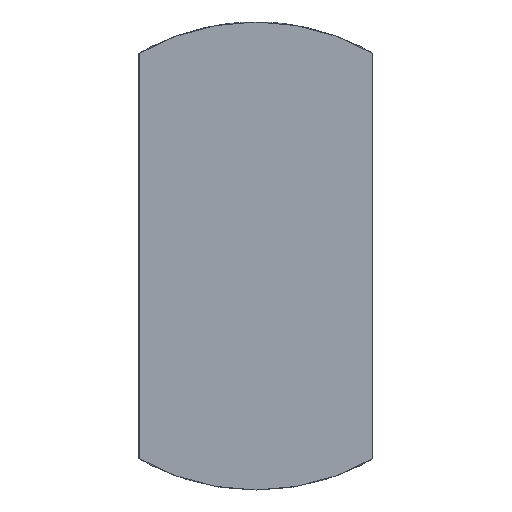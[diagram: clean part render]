
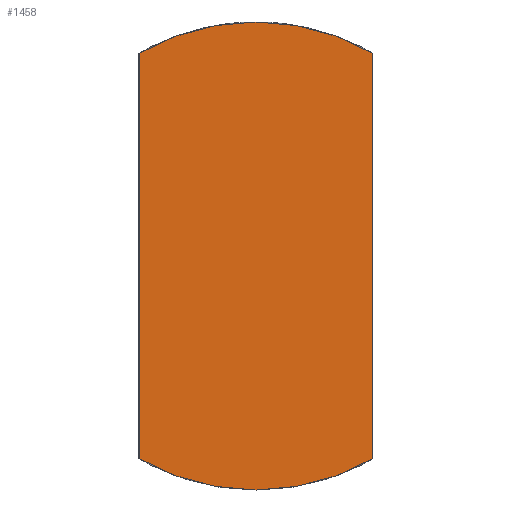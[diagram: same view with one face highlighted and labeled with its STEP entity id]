
A CAD part, front view. The second image highlights one B-rep face of the part: STEP entity #1458.
In plain terms, the highlighted planar face has unit normal (0, -1, 0).
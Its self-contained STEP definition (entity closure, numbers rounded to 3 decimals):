
#22 = CIRCLE ( 'NONE', #2030, 40. ) ;
#117 = ORIENTED_EDGE ( 'NONE', *, *, #2914, .T. ) ;
#176 = CARTESIAN_POINT ( 'NONE',  ( -20., 0., -34.641 ) ) ;
#203 = VERTEX_POINT ( 'NONE', #607 ) ;
#443 = PLANE ( 'NONE',  #3461 ) ;
#456 = DIRECTION ( 'NONE',  ( 0., 0., -1. ) ) ;
#486 = DIRECTION ( 'NONE',  ( 0., 0., -1. ) ) ;
#507 = VERTEX_POINT ( 'NONE', #3634 ) ;
#526 = AXIS2_PLACEMENT_3D ( 'NONE', #2598, #1746, #486 ) ;
#554 = DIRECTION ( 'NONE',  ( 0., 0., -1. ) ) ;
#607 = CARTESIAN_POINT ( 'NONE',  ( -20., 0., 34.641 ) ) ;
#674 = CARTESIAN_POINT ( 'NONE',  ( 0., 0., 0. ) ) ;
#736 = CARTESIAN_POINT ( 'NONE',  ( 0., 0., -40. ) ) ;
#763 = CARTESIAN_POINT ( 'NONE',  ( -20., 0., -40. ) ) ;
#988 = CARTESIAN_POINT ( 'NONE',  ( 0., 0., 0. ) ) ;
#1052 = CARTESIAN_POINT ( 'NONE',  ( 20., 0., -40. ) ) ;
#1054 = VERTEX_POINT ( 'NONE', #736 ) ;
#1075 = CARTESIAN_POINT ( 'NONE',  ( 0., 0., 0. ) ) ;
#1346 = DIRECTION ( 'NONE',  ( 0., -1., 0. ) ) ;
#1405 = EDGE_CURVE ( 'NONE', #2379, #203, #2888, .T. ) ;
#1458 = ADVANCED_FACE ( 'NONE', ( #2231 ), #443, .T. ) ;
#1525 = ORIENTED_EDGE ( 'NONE', *, *, #2741, .T. ) ;
#1656 = ORIENTED_EDGE ( 'NONE', *, *, #2810, .T. ) ;
#1723 = DIRECTION ( 'NONE',  ( 0., 0., 1. ) ) ;
#1740 = CIRCLE ( 'NONE', #526, 40. ) ;
#1746 = DIRECTION ( 'NONE',  ( 0., -1., 0. ) ) ;
#1772 = CARTESIAN_POINT ( 'NONE',  ( 20., 0., -34.641 ) ) ;
#1998 = DIRECTION ( 'NONE',  ( 0., -1., 0. ) ) ;
#2030 = AXIS2_PLACEMENT_3D ( 'NONE', #1075, #1998, #554 ) ;
#2059 = ORIENTED_EDGE ( 'NONE', *, *, #1405, .F. ) ;
#2231 = FACE_OUTER_BOUND ( 'NONE', #3743, .T. ) ;
#2302 = VECTOR ( 'NONE', #3186, 1000. ) ;
#2307 = CIRCLE ( 'NONE', #3830, 40. ) ;
#2344 = ORIENTED_EDGE ( 'NONE', *, *, #2429, .T. ) ;
#2379 = VERTEX_POINT ( 'NONE', #176 ) ;
#2429 = EDGE_CURVE ( 'NONE', #507, #203, #22, .T. ) ;
#2598 = CARTESIAN_POINT ( 'NONE',  ( 0., 0., 0. ) ) ;
#2616 = DIRECTION ( 'NONE',  ( 0., -1., 0. ) ) ;
#2720 = VECTOR ( 'NONE', #1723, 1000. ) ;
#2741 = EDGE_CURVE ( 'NONE', #1054, #3422, #1740, .T. ) ;
#2810 = EDGE_CURVE ( 'NONE', #2379, #1054, #2307, .T. ) ;
#2888 = LINE ( 'NONE', #763, #2302 ) ;
#2914 = EDGE_CURVE ( 'NONE', #3422, #507, #3848, .T. ) ;
#3186 = DIRECTION ( 'NONE',  ( 0., 0., 1. ) ) ;
#3422 = VERTEX_POINT ( 'NONE', #1772 ) ;
#3461 = AXIS2_PLACEMENT_3D ( 'NONE', #674, #1346, #3775 ) ;
#3634 = CARTESIAN_POINT ( 'NONE',  ( 20., 0., 34.641 ) ) ;
#3743 = EDGE_LOOP ( 'NONE', ( #2059, #1656, #1525, #117, #2344 ) ) ;
#3775 = DIRECTION ( 'NONE',  ( 0., 0., -1. ) ) ;
#3830 = AXIS2_PLACEMENT_3D ( 'NONE', #988, #2616, #456 ) ;
#3848 = LINE ( 'NONE', #1052, #2720 ) ;
